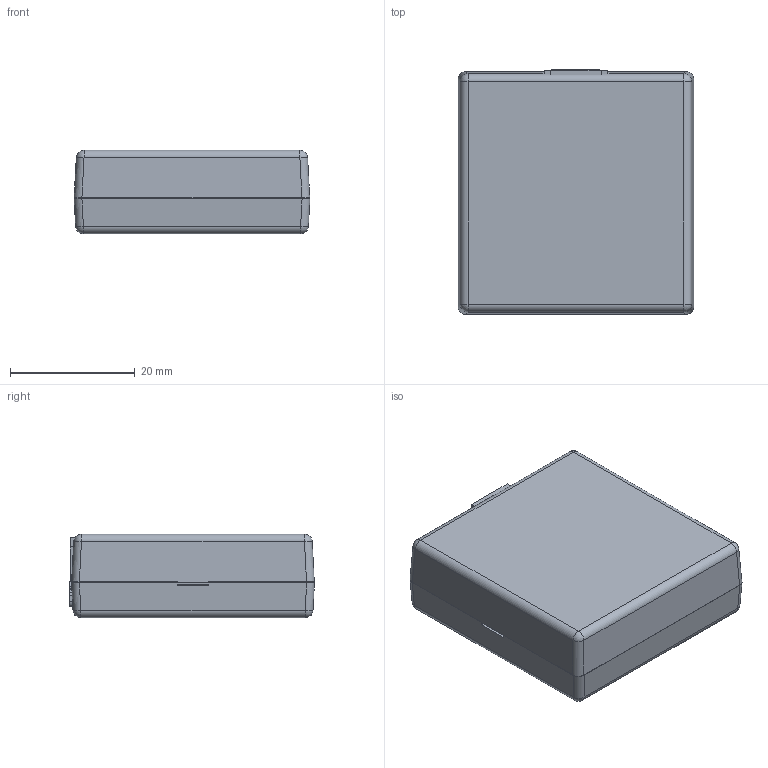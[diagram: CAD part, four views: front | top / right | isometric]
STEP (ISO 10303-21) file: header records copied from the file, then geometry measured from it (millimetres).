
FILE_DESCRIPTION(/* description */ ('Alibre Inc.'),/* implementation_level */ '2;1');
FILE_NAME(/* name */ 'export-E4EBF19E-BF02-40A4-894F-D0968A95D0A8',/* time_stamp */ '2024-03-28T13:54:52-06:00',/* author */ (''),/* organization */ (''),/* preprocessor_version */ 'ST-DEVELOPER v17',/* originating_system */ 'Alibre',/* authorisation */ '');
FILE_SCHEMA (('CONFIG_CONTROL_DESIGN'));
Length unit declared in the file: millimetre
Products named in the file (109): 6203594816; 6203594624; R24; R23; R22; R21; R20; R19; R18; R17; R16; R15; R12; R9; R8; R7; 6587433408; U5; J1; 6203594048; 6203593856; R14; 6587433216; MP1; C13; 6203593088; 6203592896; C11; 6203594240; L1; 6254185344; C7; User_Library-SOT-23-1; U9; U2; R10; O1; 6203593664; 6203593472; C23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
Bounding box: 37.85 x 39.31 x 13.38 mm (x, y, z)
Volume: 9594.7 mm3; surface area: 14369.7 mm2
Topology: 109 solids, 109 shells, 1802 faces, 4404 edges, 2818 vertices
Faces by surface type: plane 1385, cylinder 288, bspline 107, sphere 10, cone 8, torus 4
Full cylindrical faces by diameter (mm): 0.381 x4, 0.5 x2, 0.711 x2, 0.965 x35, 3.099 x4, 3.175 x4, 4.5 x1
Entity records: 54664 total; most frequent: CARTESIAN_POINT 11251, ORIENTED_EDGE 6544, DIRECTION 5603, EDGE_CURVE 3272, VECTOR 2492, LINE 2492, VERTEX_POINT 2086, AXIS2_PLACEMENT_3D 2010
